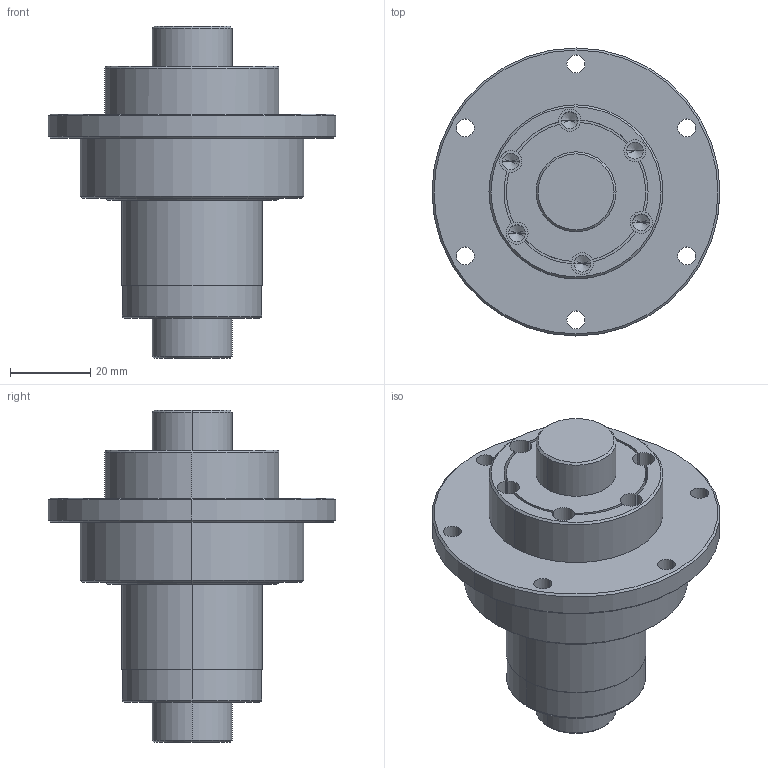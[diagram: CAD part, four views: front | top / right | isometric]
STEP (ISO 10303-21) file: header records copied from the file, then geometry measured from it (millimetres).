
FILE_DESCRIPTION (( 'STEP AP203' ), '1' );
FILE_NAME ('RLSF20.STEP', '2014-11-13T05:16:03', ( '' ), ( '' ), 'SwSTEP 2.0', 'SolidWorks 2014', '' );
FILE_SCHEMA (( 'CONFIG_CONTROL_DESIGN' ));
Length unit declared in the file: millimetre
Products named in the file (1): RLSF20
Bounding box: 72 x 72 x 83 mm (x, y, z)
Volume: 111533.6 mm3; surface area: 30174.8 mm2
Topology: 3 solids, 3 shells, 113 faces, 275 edges, 168 vertices
Faces by surface type: cylinder 73, cone 26, plane 12, torus 2
Entity records: 3390 total; most frequent: DIRECTION 655, CARTESIAN_POINT 545, ORIENTED_EDGE 526, AXIS2_PLACEMENT_3D 278, EDGE_CURVE 263, VERTEX_POINT 168, CIRCLE 164, EDGE_LOOP 141
